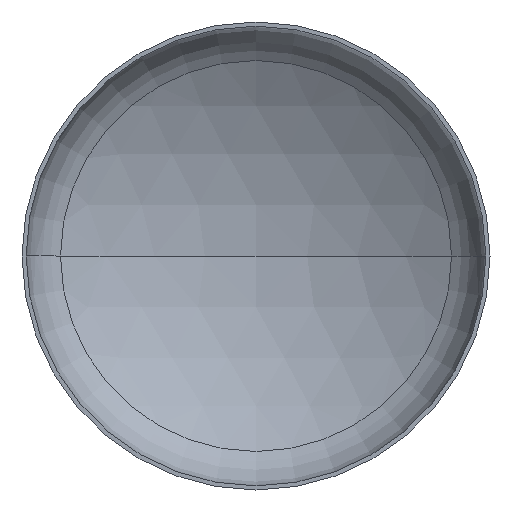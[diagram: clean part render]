
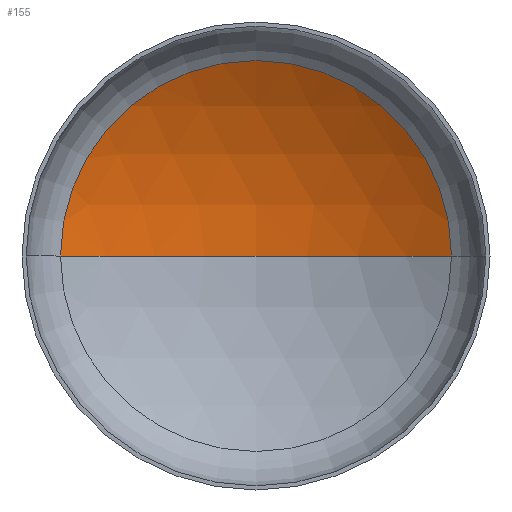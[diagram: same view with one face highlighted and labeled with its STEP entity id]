
A CAD part, front view. The second image highlights one B-rep face of the part: STEP entity #155.
In plain terms, the highlighted spherical face has radius 2240 mm.
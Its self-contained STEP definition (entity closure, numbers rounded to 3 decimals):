
#1 = VERTEX_POINT ( 'NONE', #242 ) ;
#21 = ORIENTED_EDGE ( 'NONE', *, *, #171, .F. ) ;
#71 = AXIS2_PLACEMENT_3D ( 'NONE', #272, #268, #232 ) ;
#75 = AXIS2_PLACEMENT_3D ( 'NONE', #207, #257, #245 ) ;
#76 = AXIS2_PLACEMENT_3D ( 'NONE', #168, #185, #186 ) ;
#84 = AXIS2_PLACEMENT_3D ( 'NONE', #305, #296, #176 ) ;
#137 = VERTEX_POINT ( 'NONE', #324 ) ;
#152 = EDGE_LOOP ( 'NONE', ( #21, #351, #388 ) ) ;
#155 = ADVANCED_FACE ( 'NONE', ( #328 ), #318, .F. ) ;
#168 = CARTESIAN_POINT ( 'NONE',  ( 0., 441.74, 0. ) ) ;
#169 = EDGE_CURVE ( 'NONE', #382, #1, #180, .T. ) ;
#170 = EDGE_CURVE ( 'NONE', #137, #382, #374, .T. ) ;
#171 = EDGE_CURVE ( 'NONE', #137, #1, #314, .T. ) ;
#176 = DIRECTION ( 'NONE',  ( -1., 0., 0. ) ) ;
#180 = CIRCLE ( 'NONE', #76, 1169.503 ) ;
#185 = DIRECTION ( 'NONE',  ( 0., -1., 0. ) ) ;
#186 = DIRECTION ( 'NONE',  ( 1., 0., 0. ) ) ;
#207 = CARTESIAN_POINT ( 'NONE',  ( 0., -1468.721, 0. ) ) ;
#228 = CARTESIAN_POINT ( 'NONE',  ( 1169.503, 441.74, 0. ) ) ;
#232 = DIRECTION ( 'NONE',  ( 1., 0., 0. ) ) ;
#242 = CARTESIAN_POINT ( 'NONE',  ( -1169.503, 441.74, 0. ) ) ;
#245 = DIRECTION ( 'NONE',  ( -1., 0., 0. ) ) ;
#257 = DIRECTION ( 'NONE',  ( 0., 0., -1. ) ) ;
#268 = DIRECTION ( 'NONE',  ( 0., 0., 1. ) ) ;
#272 = CARTESIAN_POINT ( 'NONE',  ( 0., -1468.721, 0. ) ) ;
#296 = DIRECTION ( 'NONE',  ( 0., 0., -1. ) ) ;
#305 = CARTESIAN_POINT ( 'NONE',  ( 0., -1468.721, 0. ) ) ;
#314 = CIRCLE ( 'NONE', #71, 2240. ) ;
#318 = SPHERICAL_SURFACE ( 'NONE', #84, 2240. ) ;
#324 = CARTESIAN_POINT ( 'NONE',  ( 0., 771.279, 0. ) ) ;
#328 = FACE_OUTER_BOUND ( 'NONE', #152, .T. ) ;
#351 = ORIENTED_EDGE ( 'NONE', *, *, #170, .T. ) ;
#374 = CIRCLE ( 'NONE', #75, 2240. ) ;
#382 = VERTEX_POINT ( 'NONE', #228 ) ;
#388 = ORIENTED_EDGE ( 'NONE', *, *, #169, .T. ) ;
